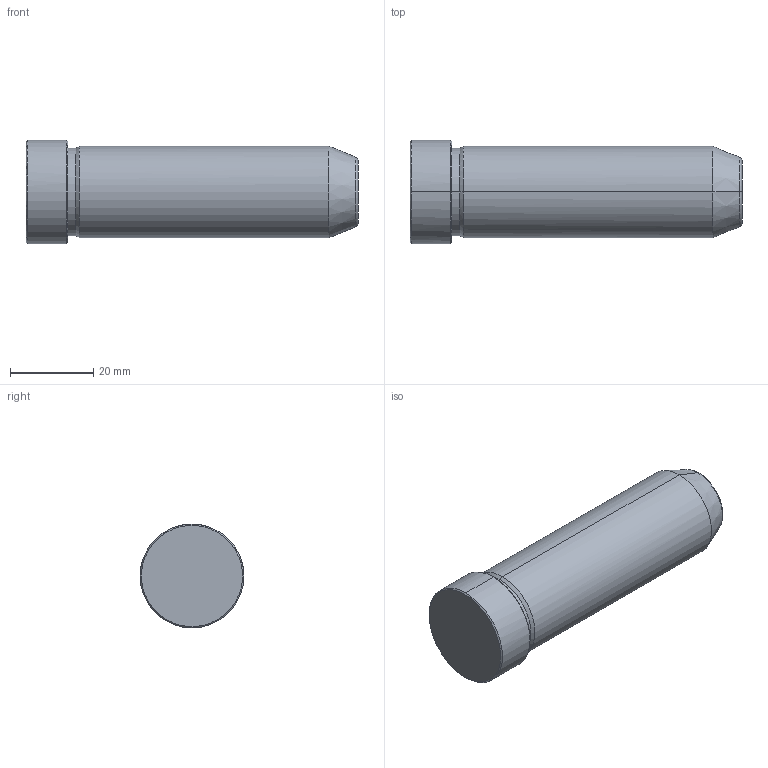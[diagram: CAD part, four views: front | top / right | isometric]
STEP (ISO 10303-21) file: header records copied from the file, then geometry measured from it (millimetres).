
FILE_DESCRIPTION(('CATIA V5 STEP Exchange'),'2;1');
FILE_NAME('C:\Users\Utente\Desktop\IO LAVORO\3D X SITO CF\X SITO\PLASTICA\549\549-22X80.stp','2021-12-13T13:01:09+00:00',('none'),('none'),'CATIA Version 5 Release 20 GA (IN-10)','CATIA V5 STEP AP203','none');
FILE_SCHEMA(('CONFIG_CONTROL_DESIGN'));
Length unit declared in the file: millimetre
Products named in the file (1): 549-22X80
Bounding box: 80 x 25 x 25 mm (x, y, z)
Volume: 30799.1 mm3; surface area: 6404.6 mm2
Topology: 1 solids, 1 shells, 19 faces, 56 edges, 40 vertices
Faces by surface type: cone 8, cylinder 6, plane 3, torus 2
Entity records: 736 total; most frequent: CARTESIAN_POINT 192, ORIENTED_EDGE 112, DIRECTION 86, EDGE_CURVE 56, AXIS2_PLACEMENT_3D 54, VERTEX_POINT 40, CIRCLE 34, EDGE_LOOP 20
